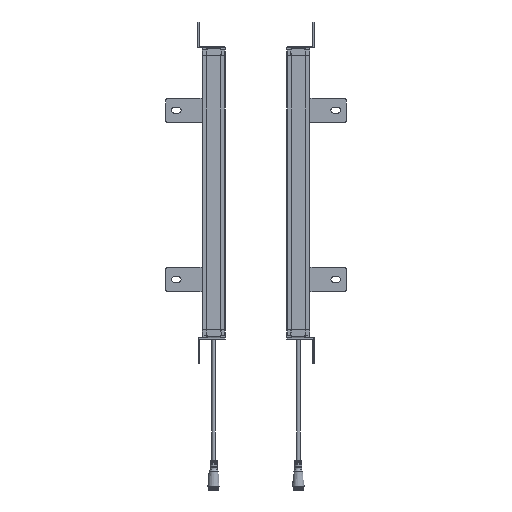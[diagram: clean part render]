
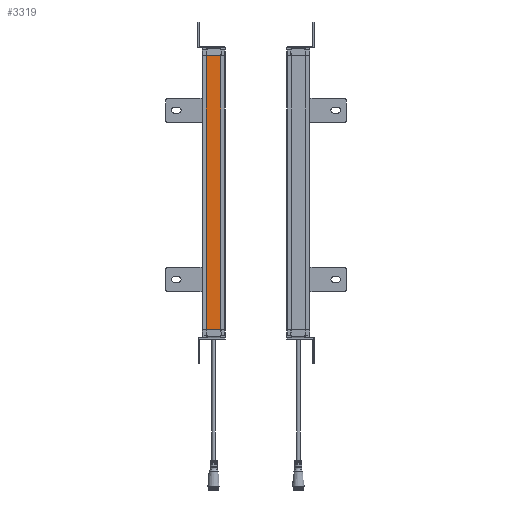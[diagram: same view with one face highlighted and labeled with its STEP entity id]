
A CAD part, left-side view. The second image highlights one B-rep face of the part: STEP entity #3319.
In plain terms, the highlighted planar face has unit normal (-1, 0, 0).
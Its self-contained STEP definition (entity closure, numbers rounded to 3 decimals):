
#1795=FACE_OUTER_BOUND('',#5986,.T.);
#3319=ADVANCED_FACE('',(#1795),#4749,.T.);
#4749=PLANE('',#29857);
#5986=EDGE_LOOP('',(#9184,#9185,#9186,#9187));
#9184=ORIENTED_EDGE('',*,*,#19383,.F.);
#9185=ORIENTED_EDGE('',*,*,#19072,.T.);
#9186=ORIENTED_EDGE('',*,*,#19385,.T.);
#9187=ORIENTED_EDGE('',*,*,#19386,.F.);
#16145=VERTEX_POINT('',#43699);
#16146=VERTEX_POINT('',#43701);
#16357=VERTEX_POINT('',#44323);
#16358=VERTEX_POINT('',#44327);
#19072=EDGE_CURVE('',#16146,#16145,#24663,.T.);
#19383=EDGE_CURVE('',#16146,#16357,#24884,.T.);
#19385=EDGE_CURVE('',#16145,#16358,#24886,.T.);
#19386=EDGE_CURVE('',#16357,#16358,#24887,.T.);
#24663=LINE('',#43700,#27142);
#24884=LINE('',#44322,#27363);
#24886=LINE('',#44326,#27365);
#24887=LINE('',#44328,#27366);
#27142=VECTOR('',#33404,1.);
#27363=VECTOR('',#34005,1.);
#27365=VECTOR('',#34009,1.);
#27366=VECTOR('',#34010,1.);
#29857=AXIS2_PLACEMENT_3D('',#44329,#34011,#34012);
#33404=DIRECTION('',(0.,1.,0.));
#34005=DIRECTION('',(0.,0.,-1.));
#34009=DIRECTION('',(0.,0.,-1.));
#34010=DIRECTION('',(0.,1.,0.));
#34011=DIRECTION('',(-1.,0.,0.));
#34012=DIRECTION('',(0.,1.,0.));
#43699=CARTESIAN_POINT('',(50.4,-5.5,298.059));
#43700=CARTESIAN_POINT('',(50.4,-5.5,298.059));
#43701=CARTESIAN_POINT('',(50.4,-23.5,298.059));
#44322=CARTESIAN_POINT('',(50.4,-23.5,103.059));
#44323=CARTESIAN_POINT('',(50.4,-23.5,-41.941));
#44326=CARTESIAN_POINT('',(50.4,-5.5,103.059));
#44327=CARTESIAN_POINT('',(50.4,-5.5,-41.941));
#44328=CARTESIAN_POINT('',(50.4,-23.5,-41.941));
#44329=CARTESIAN_POINT('',(50.4,-5.5,-61.941));
